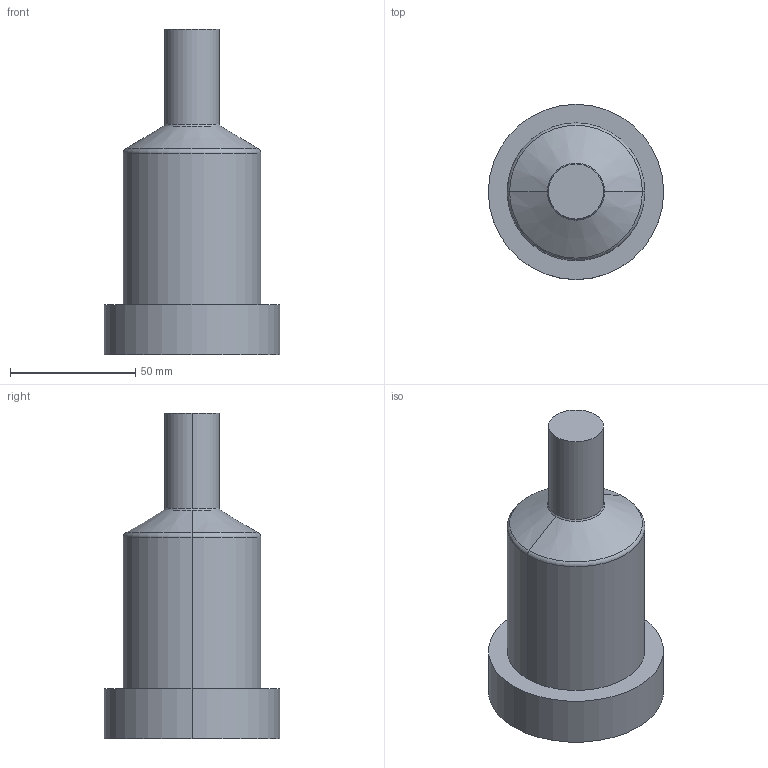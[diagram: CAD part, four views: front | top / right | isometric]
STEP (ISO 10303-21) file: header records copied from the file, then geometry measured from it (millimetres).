
FILE_DESCRIPTION (( 'STEP AP214' ), '1' );
FILE_NAME ('22E-06-100-##P.STEP', '2022-01-10T08:49:45', ( '' ), ( '' ), 'SwSTEP 2.0', 'SolidWorks 2018', '' );
FILE_SCHEMA (( 'AUTOMOTIVE_DESIGN' ));
Length unit declared in the file: millimetre
Products named in the file (2): cutout_22E-06-100-##P; 22E-06-100-##P
Assembly tree (1 placements, depth 2):
  22E-06-100-##P
    cutout_22E-06-100-##P
Bounding box: 70 x 70 x 130 mm (x, y, z)
Volume: 250226.8 mm3; surface area: 25690.4 mm2
Topology: 1 solids, 1 shells, 15 faces, 28 edges, 16 vertices
Faces by surface type: cylinder 6, cone 4, plane 3, torus 2
Entity records: 442 total; most frequent: DIRECTION 84, CARTESIAN_POINT 63, ORIENTED_EDGE 56, AXIS2_PLACEMENT_3D 37, EDGE_CURVE 28, CIRCLE 18, VERTEX_POINT 16, EDGE_LOOP 16
